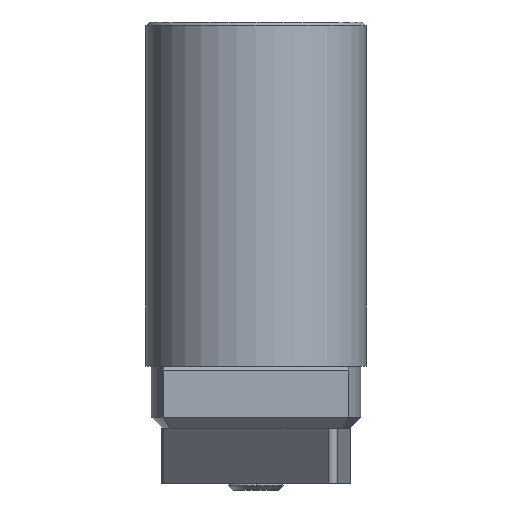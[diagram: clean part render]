
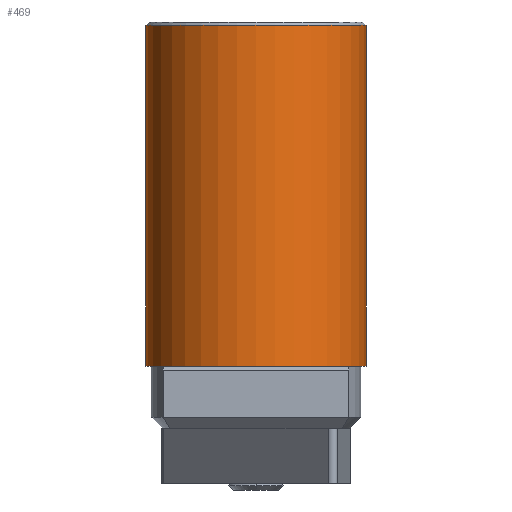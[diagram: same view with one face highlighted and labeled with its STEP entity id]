
A CAD part, front view. The second image highlights one B-rep face of the part: STEP entity #469.
In plain terms, the highlighted cylindrical face has radius 16 mm (diameter 32 mm), a partial arc.
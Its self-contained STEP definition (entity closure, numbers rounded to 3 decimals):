
#162 = VERTEX_POINT ( 'NONE', #811 ) ;
#164 = EDGE_CURVE ( 'NONE', #221, #162, #807, .T. ) ;
#168 = EDGE_CURVE ( 'NONE', #218, #169, #854, .T. ) ;
#169 = VERTEX_POINT ( 'NONE', #845 ) ;
#218 = VERTEX_POINT ( 'NONE', #945 ) ;
#221 = VERTEX_POINT ( 'NONE', #939 ) ;
#468 = EDGE_CURVE ( 'NONE', #218, #221, #1316, .T. ) ;
#469 = ADVANCED_FACE ( 'NONE', ( #1375 ), #1374, .T. ) ;
#475 = EDGE_LOOP ( 'NONE', ( #540, #539, #538, #536 ) ) ;
#481 = EDGE_CURVE ( 'NONE', #162, #169, #1353, .T. ) ;
#536 = ORIENTED_EDGE ( 'NONE', *, *, #481, .T. ) ;
#538 = ORIENTED_EDGE ( 'NONE', *, *, #164, .T. ) ;
#539 = ORIENTED_EDGE ( 'NONE', *, *, #468, .T. ) ;
#540 = ORIENTED_EDGE ( 'NONE', *, *, #168, .F. ) ;
#798 = DIRECTION ( 'NONE',  ( 0., 0., -1. ) ) ;
#799 = VECTOR ( 'NONE', #798, 1000. ) ;
#800 = CARTESIAN_POINT ( 'NONE',  ( -16., 0., 50. ) ) ;
#807 = LINE ( 'NONE', #800, #799 ) ;
#811 = CARTESIAN_POINT ( 'NONE',  ( -16., 0., 0. ) ) ;
#845 = CARTESIAN_POINT ( 'NONE',  ( 16., 0., 0. ) ) ;
#846 = DIRECTION ( 'NONE',  ( 0., 0., -1. ) ) ;
#847 = VECTOR ( 'NONE', #846, 1000. ) ;
#848 = CARTESIAN_POINT ( 'NONE',  ( 16., 0., 50. ) ) ;
#854 = LINE ( 'NONE', #848, #847 ) ;
#939 = CARTESIAN_POINT ( 'NONE',  ( -16., 0., 49.5 ) ) ;
#945 = CARTESIAN_POINT ( 'NONE',  ( 16., 0., 49.5 ) ) ;
#1316 = CIRCLE ( 'NONE', #1379, 16. ) ;
#1349 = DIRECTION ( 'NONE',  ( 1., 0., 0. ) ) ;
#1350 = DIRECTION ( 'NONE',  ( 0., 0., 1. ) ) ;
#1351 = CARTESIAN_POINT ( 'NONE',  ( 0., 0., 0. ) ) ;
#1352 = AXIS2_PLACEMENT_3D ( 'NONE', #1351, #1350, #1349 ) ;
#1353 = CIRCLE ( 'NONE', #1352, 16. ) ;
#1370 = DIRECTION ( 'NONE',  ( -1., 0., 0. ) ) ;
#1371 = DIRECTION ( 'NONE',  ( 0., 0., -1. ) ) ;
#1372 = AXIS2_PLACEMENT_3D ( 'NONE', #1373, #1371, #1370 ) ;
#1373 = CARTESIAN_POINT ( 'NONE',  ( 0., 0., 50. ) ) ;
#1374 = CYLINDRICAL_SURFACE ( 'NONE', #1372, 16. ) ;
#1375 = FACE_OUTER_BOUND ( 'NONE', #475, .T. ) ;
#1376 = DIRECTION ( 'NONE',  ( 1., 0., 0. ) ) ;
#1377 = DIRECTION ( 'NONE',  ( 0., 0., -1. ) ) ;
#1378 = CARTESIAN_POINT ( 'NONE',  ( 0., 0., 49.5 ) ) ;
#1379 = AXIS2_PLACEMENT_3D ( 'NONE', #1378, #1377, #1376 ) ;
